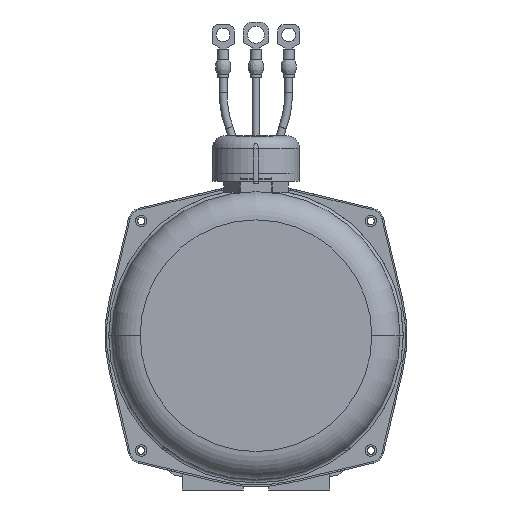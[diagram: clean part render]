
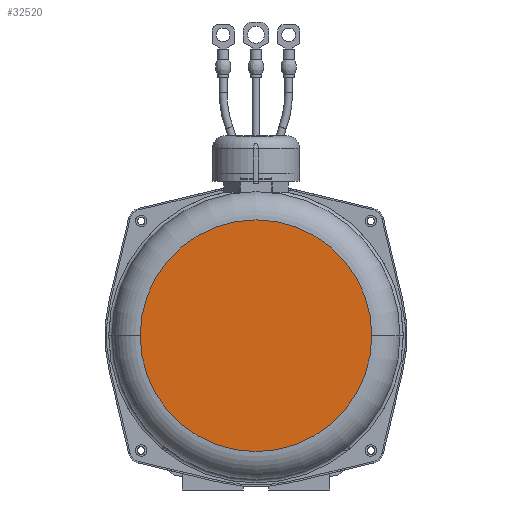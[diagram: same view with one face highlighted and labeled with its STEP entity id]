
A CAD part, front view. The second image highlights one B-rep face of the part: STEP entity #32520.
In plain terms, the highlighted planar face has unit normal (0, -1, 0).
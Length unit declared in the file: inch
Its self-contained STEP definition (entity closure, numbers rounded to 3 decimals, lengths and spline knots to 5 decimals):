
#31664=CARTESIAN_POINT('',(0.,-16.846,0.97999));
#31665=DIRECTION('',(0.,-1.,0.));
#31666=DIRECTION('',(-1.,0.,0.));
#31667=AXIS2_PLACEMENT_3D('',#31664,#31665,#31666);
#31669=CARTESIAN_POINT('',(0.,-16.846,0.97999));
#31670=DIRECTION('',(0.,-1.,0.));
#31671=DIRECTION('',(1.,0.,0.));
#31672=AXIS2_PLACEMENT_3D('',#31669,#31670,#31671);
#32017=CARTESIAN_POINT('',(2.2525,-16.846,0.97999));
#32018=VERTEX_POINT('',#32017);
#32019=CARTESIAN_POINT('',(-2.2525,-16.846,0.97999));
#32020=VERTEX_POINT('',#32019);
#32511=CARTESIAN_POINT('',(0.,-16.846,0.97999));
#32512=DIRECTION('',(0.,1.,0.));
#32513=DIRECTION('',(-1.,0.,0.));
#32514=AXIS2_PLACEMENT_3D('',#32511,#32512,#32513);
#32515=PLANE('',#32514);
#32516=ORIENTED_EDGE('',*,*,#32506,.F.);
#32517=ORIENTED_EDGE('',*,*,#32490,.F.);
#32518=EDGE_LOOP('',(#32516,#32517));
#32519=FACE_OUTER_BOUND('',#32518,.F.);
#32520=ADVANCED_FACE('',(#32519),#32515,.F.);
#31668=CIRCLE('',#31667,2.2525);
#31673=CIRCLE('',#31672,2.2525);
#32490=EDGE_CURVE('',#32018,#32020,#31673,.T.);
#32506=EDGE_CURVE('',#32020,#32018,#31668,.T.);
